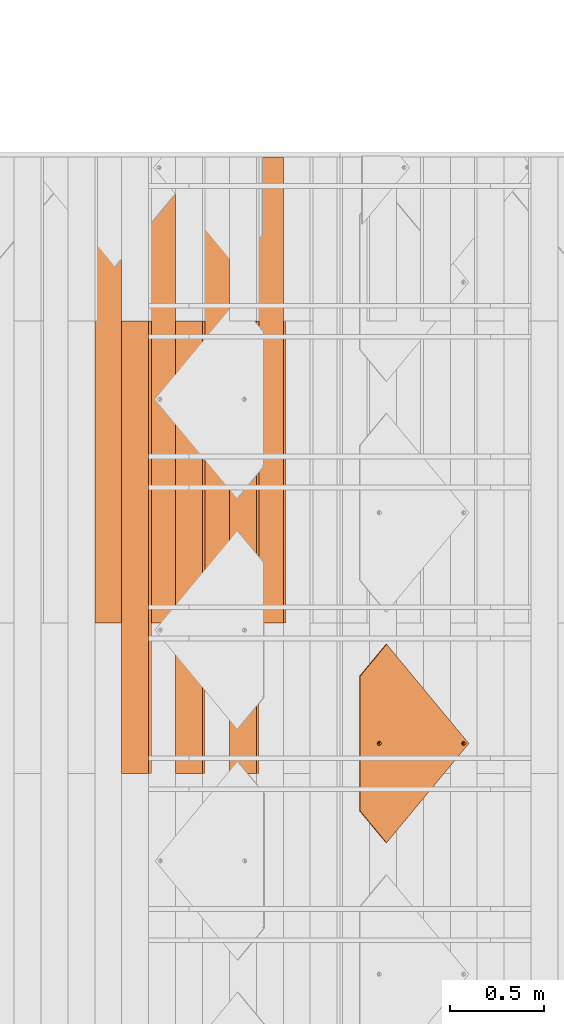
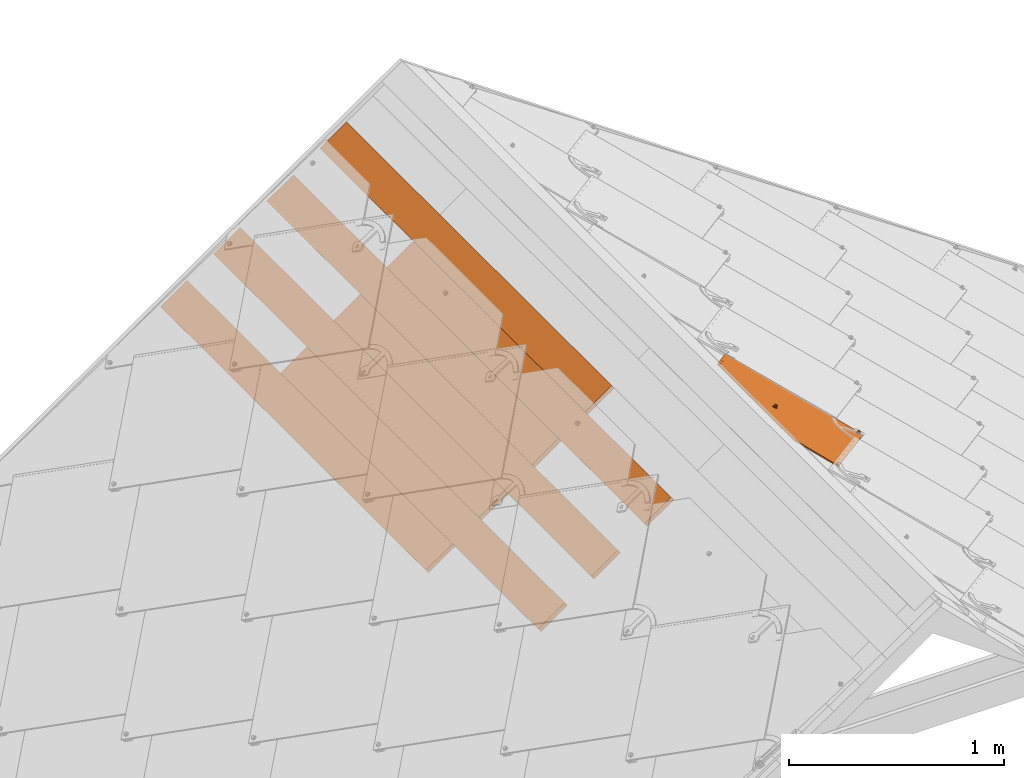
# One storey, part 69 of 151: 8 proxies, 1 element without a shape of its own.
"""IFC2X3 building model written with IfcOpenShell, lengths in millimetres."""

from ifc_helpers import new_model, entity, si_unit, converted_unit, derived_unit, direction, frame, frame_2d, origin, place, context, subcontext, project, spatial, rectangle, extrude, faceted_brep, source, transform, mapped, material, material_list, type_object, type_shapes, element, aggregate, save


model = new_model("IFC2X3")

# Units and contexts
model_context = context("Model", 3, precision=0.01, world=origin(), true_north=direction((6.12303176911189e-17, 1.0)))
body_context = subcontext(model_context, "Body", "Model", "MODEL_VIEW")
ifc_project = project(units=[si_unit("LENGTHUNIT", "METRE", prefix="MILLI"), si_unit("AREAUNIT", "SQUARE_METRE"), si_unit("VOLUMEUNIT", "CUBIC_METRE"), converted_unit("PLANEANGLEUNIT", "DEGREE", entity("IfcRatioMeasure", 0.0174532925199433), si_unit("PLANEANGLEUNIT", "RADIAN"), dimensions=[0, 0, 0, 0, 0, 0, 0]), si_unit("MASSUNIT", "GRAM", prefix="KILO"), derived_unit("MASSDENSITYUNIT", [(si_unit("MASSUNIT", "GRAM", prefix="KILO"), 1), (si_unit("LENGTHUNIT", "METRE"), -3)]), si_unit("TIMEUNIT", "SECOND"), si_unit("FREQUENCYUNIT", "HERTZ"), si_unit("THERMODYNAMICTEMPERATUREUNIT", "DEGREE_CELSIUS"), derived_unit("THERMALTRANSMITTANCEUNIT", [(si_unit("MASSUNIT", "GRAM", prefix="KILO"), 1), (si_unit("THERMODYNAMICTEMPERATUREUNIT", "KELVIN"), -1), (si_unit("TIMEUNIT", "SECOND"), -3)]), derived_unit("VOLUMETRICFLOWRATEUNIT", [(si_unit("LENGTHUNIT", "METRE"), 3), (si_unit("TIMEUNIT", "SECOND"), -1)]), si_unit("ELECTRICCURRENTUNIT", "AMPERE"), si_unit("ELECTRICVOLTAGEUNIT", "VOLT"), si_unit("POWERUNIT", "WATT"), si_unit("FORCEUNIT", "NEWTON", prefix="KILO"), si_unit("ILLUMINANCEUNIT", "LUX"), si_unit("LUMINOUSFLUXUNIT", "LUMEN"), si_unit("LUMINOUSINTENSITYUNIT", "CANDELA"), derived_unit("USERDEFINED", [(si_unit("MASSUNIT", "GRAM", prefix="KILO"), -1), (si_unit("LENGTHUNIT", "METRE"), -2), (si_unit("TIMEUNIT", "SECOND"), 3), (si_unit("LUMINOUSFLUXUNIT", "LUMEN"), 1)]), derived_unit("LINEARVELOCITYUNIT", [(si_unit("LENGTHUNIT", "METRE"), 1), (si_unit("TIMEUNIT", "SECOND"), -1)]), si_unit("PRESSUREUNIT", "PASCAL"), derived_unit("USERDEFINED", [(si_unit("LENGTHUNIT", "METRE"), -2), (si_unit("MASSUNIT", "GRAM", prefix="KILO"), 1), (si_unit("TIMEUNIT", "SECOND"), -2)])], contexts=[model_context])

# Site, building, storey
site_placement = place(None, origin())
site = spatial("IfcSite", under=ifc_project, at=site_placement, Name="Default", CompositionType="ELEMENT")
building_placement = place(site_placement, origin())
building = spatial("IfcBuilding", under=site, at=building_placement, CompositionType="ELEMENT")
storey_placement = place(building_placement, origin())
storey = spatial("IfcBuildingStorey", under=building, at=storey_placement, Name="Level 1", CompositionType="ELEMENT", Elevation=0.0)

# Assembly, proxies
assembly_placement = place(storey_placement, origin())
assembly = element("IfcElementAssembly", 1, at=assembly_placement, inside=storey, Name="Structural Framing Assembly:Roof Construction Assembly", ObjectType="Structural Framing Assembly:Roof Construction Assembly", AssemblyPlace="NOTDEFINED", PredefinedType="USERDEFINED")
ifc_material_1 = material(Name="Wood - Generic - Wood For Showcase")
building_element_proxy_type_1 = type_object("IfcBuildingElementProxyType", Name="Structural Framing 15", PredefinedType="NOTDEFINED", material=ifc_material_1)
shared_shape_1 = source(origin(), body_context, "Body", "SweptSolid", [
    extrude(rectangle(XDim=24.9999999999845, YDim=174.344679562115, at=frame_2d((-1.77635683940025e-13, -4.54747350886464e-13), x_axis=(0.0, 1.0))), frame((1128.20180147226, 1455.55080214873, 2760.23940055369), z_axis=(0.0, 1.0, 0.0), x_axis=(-0.819152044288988, 0.0, -0.573576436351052)), (0.0, 0.0, 1.0), 2469.99999999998),
])
type_shapes(building_element_proxy_type_1, [shared_shape_1])
proxy_1_placement = place(assembly_placement, frame((-228.141730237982, 0.0, -200.0)))
proxy_1 = element("IfcBuildingElementProxy", 2, at=proxy_1_placement, type_object=building_element_proxy_type_1, material=ifc_material_1, Name="Structural Framing 25:Structural Framing 15", ObjectType="Structural Framing 25:Structural Framing 15", context=body_context, shape_type="MappedRepresentation", body=[
    mapped(shared_shape_1, transform((0.0, 0.0, 0.0), scale=1.0)),
])
building_element_proxy_type_2 = type_object("IfcBuildingElementProxyType", Name="Structural Framing 15", PredefinedType="NOTDEFINED", material=ifc_material_1)
shared_shape_2 = source(origin(), body_context, "Body", "SweptSolid", [
    extrude(rectangle(XDim=24.9999999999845, YDim=174.344679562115, at=frame_2d((-1.77635683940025e-13, -4.54747350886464e-13), x_axis=(0.0, 1.0))), frame((1128.20180147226, 1525.55080214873, 2760.23940055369), z_axis=(0.0, 1.0, 0.0), x_axis=(-0.819152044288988, 0.0, -0.573576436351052)), (0.0, 0.0, 1.0), 2399.99999999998),
])
type_shapes(building_element_proxy_type_2, [shared_shape_2])
proxy_2_placement = place(assembly_placement, frame((-370.956530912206, -870.0, -300.0)))
proxy_2 = element("IfcBuildingElementProxy", 3, at=proxy_2_placement, type_object=building_element_proxy_type_2, material=ifc_material_1, Name="Structural Framing 30:Structural Framing 15", ObjectType="Structural Framing 30:Structural Framing 15", context=body_context, shape_type="MappedRepresentation", body=[
    mapped(shared_shape_2, transform((0.0, 0.0, 0.0), scale=1.0)),
])
building_element_proxy_type_3 = type_object("IfcBuildingElementProxyType", Name="Structural Framing 15", PredefinedType="NOTDEFINED", material=ifc_material_1)
shared_shape_3 = source(origin(), body_context, "Body", "SweptSolid", [
    extrude(rectangle(XDim=24.9999999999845, YDim=174.344679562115, at=frame_2d((-1.77635683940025e-13, -4.54747350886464e-13), x_axis=(0.0, 1.0))), frame((1128.20180147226, 1455.55080214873, 2760.23940055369), z_axis=(0.0, 1.0, 0.0), x_axis=(-0.819152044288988, 0.0, -0.573576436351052)), (0.0, 0.0, 1.0), 2469.99999999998),
])
type_shapes(building_element_proxy_type_3, [shared_shape_3])
proxy_3_placement = place(assembly_placement, frame((-513.771331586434, 0.0, -400.0)))
proxy_3 = element("IfcBuildingElementProxy", 4, at=proxy_3_placement, type_object=building_element_proxy_type_3, material=ifc_material_1, Name="Structural Framing 35:Structural Framing 15", ObjectType="Structural Framing 35:Structural Framing 15", context=body_context, shape_type="MappedRepresentation", body=[
    mapped(shared_shape_3, transform((0.0, 0.0, 0.0), scale=1.0)),
])
building_element_proxy_type_4 = type_object("IfcBuildingElementProxyType", Name="Structural Framing 15", PredefinedType="NOTDEFINED", material=ifc_material_1)
shared_shape_4 = source(origin(), body_context, "Body", "SweptSolid", [
    extrude(rectangle(XDim=24.9999999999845, YDim=174.344679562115, at=frame_2d((-1.77635683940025e-13, -4.54747350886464e-13), x_axis=(0.0, 1.0))), frame((1128.20180147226, 1525.55080214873, 2760.23940055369), z_axis=(0.0, 1.0, 0.0), x_axis=(-0.819152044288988, 0.0, -0.573576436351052)), (0.0, 0.0, 1.0), 2399.99999999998),
])
type_shapes(building_element_proxy_type_4, [shared_shape_4])
proxy_4_placement = place(assembly_placement, frame((-656.586132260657, -870.0, -500.0)))
proxy_4 = element("IfcBuildingElementProxy", 5, at=proxy_4_placement, type_object=building_element_proxy_type_4, material=ifc_material_1, Name="Structural Framing 40:Structural Framing 15", ObjectType="Structural Framing 40:Structural Framing 15", context=body_context, shape_type="MappedRepresentation", body=[
    mapped(shared_shape_4, transform((0.0, 0.0, 0.0), scale=1.0)),
])
building_element_proxy_type_5 = type_object("IfcBuildingElementProxyType", Name="Structural Framing 15", PredefinedType="NOTDEFINED", material=ifc_material_1)
shared_shape_5 = source(origin(), body_context, "Body", "SweptSolid", [
    extrude(rectangle(XDim=24.9999999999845, YDim=174.344679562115, at=frame_2d((-1.77635683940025e-13, -4.54747350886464e-13), x_axis=(0.0, 1.0))), frame((1128.20180147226, 1455.55080214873, 2760.23940055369), z_axis=(0.0, 1.0, 0.0), x_axis=(-0.819152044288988, 0.0, -0.573576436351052)), (0.0, 0.0, 1.0), 2469.99999999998),
])
type_shapes(building_element_proxy_type_5, [shared_shape_5])
proxy_5_placement = place(assembly_placement, frame((-799.400932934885, 0.0, -600.0)))
proxy_5 = element("IfcBuildingElementProxy", 6, at=proxy_5_placement, type_object=building_element_proxy_type_5, material=ifc_material_1, Name="Structural Framing 45:Structural Framing 15", ObjectType="Structural Framing 45:Structural Framing 15", context=body_context, shape_type="MappedRepresentation", body=[
    mapped(shared_shape_5, transform((0.0, 0.0, 0.0), scale=1.0)),
])
building_element_proxy_type_6 = type_object("IfcBuildingElementProxyType", Name="Structural Framing 15", PredefinedType="NOTDEFINED", material=ifc_material_1)
shared_shape_6 = source(origin(), body_context, "Body", "SweptSolid", [
    extrude(rectangle(XDim=24.9999999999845, YDim=174.344679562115, at=frame_2d((-1.77635683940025e-13, -4.54747350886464e-13), x_axis=(0.0, 1.0))), frame((1128.20180147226, 1525.55080214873, 2760.23940055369), z_axis=(0.0, 1.0, 0.0), x_axis=(-0.819152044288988, 0.0, -0.573576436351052)), (0.0, 0.0, 1.0), 2399.99999999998),
])
type_shapes(building_element_proxy_type_6, [shared_shape_6])
proxy_6_placement = place(assembly_placement, frame((-942.215733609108, -870.0, -700.0)))
proxy_6 = element("IfcBuildingElementProxy", 7, at=proxy_6_placement, type_object=building_element_proxy_type_6, material=ifc_material_1, Name="Structural Framing 50:Structural Framing 15", ObjectType="Structural Framing 50:Structural Framing 15", context=body_context, shape_type="MappedRepresentation", body=[
    mapped(shared_shape_6, transform((0.0, 0.0, 0.0), scale=1.0)),
])
building_element_proxy_type_7 = type_object("IfcBuildingElementProxyType", Name="Structural Framing 15", PredefinedType="NOTDEFINED", material=ifc_material_1)
shared_shape_7 = source(origin(), body_context, "Body", "SweptSolid", [
    extrude(rectangle(XDim=24.9999999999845, YDim=174.344679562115, at=frame_2d((-1.77635683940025e-13, -4.54747350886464e-13), x_axis=(0.0, 1.0))), frame((1128.20180147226, 1455.55080214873, 2760.23940055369), z_axis=(0.0, 1.0, 0.0), x_axis=(-0.819152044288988, 0.0, -0.573576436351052)), (0.0, 0.0, 1.0), 2469.99999999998),
])
type_shapes(building_element_proxy_type_7, [shared_shape_7])
proxy_7_placement = place(assembly_placement, frame((-1085.03053428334, 0.0, -800.0)))
proxy_7 = element("IfcBuildingElementProxy", 8, at=proxy_7_placement, type_object=building_element_proxy_type_7, material=ifc_material_1, Name="Structural Framing 55:Structural Framing 15", ObjectType="Structural Framing 55:Structural Framing 15", context=body_context, shape_type="MappedRepresentation", body=[
    mapped(shared_shape_7, transform((0.0, 0.0, 0.0), scale=1.0)),
])
aggregate(assembly, [proxy_1, proxy_2, proxy_3, proxy_4, proxy_5, proxy_6, proxy_7])

# Proxy
ifc_material_2 = material(Name="Rubber - Sunstyle - Black")
ifc_material_3 = material(Name="Glass - Sunstyle - Tainted Black")
ifc_material_list_1 = material_list([ifc_material_2, ifc_material_3])
ifc_material_list_2 = material_list([ifc_material_2, ifc_material_3])
building_element_proxy_type_8 = type_object("IfcBuildingElementProxyType", Name="Shingle Top - Black", PredefinedType="NOTDEFINED", material=ifc_material_list_2)
shared_shape_8 = source(origin(), body_context, "Body", "Brep", [
    faceted_brep([(-518.396436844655, -96.9865733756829, 16.4476231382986), (-518.396436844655, -96.9614556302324, 17.9474128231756), (-526.881123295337, -88.4767691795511, 17.8053154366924), (-526.881123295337, -88.5018869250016, 16.3055257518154), (-376.996804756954, 61.3404039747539, 13.7960402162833), (-368.512118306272, 52.8557175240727, 13.9381376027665), (-376.996804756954, 61.3655217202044, 15.2958299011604), (-368.512118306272, 52.8808352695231, 15.4379272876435)], [[[0, 1, 2, 3]], [[0, 3, 4, 5]], [[3, 2, 6, 4]], [[2, 1, 7, 6]], [[1, 0, 5, 7]], [[5, 4, 6, 7]]]),
    faceted_brep([(0.166366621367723, -33.6374645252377, -4.47296585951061), (-5.6078362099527, -36.9707346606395, -4.4171418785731), (-5.60783620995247, -36.6024255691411, 17.5747274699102), (0.166366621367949, -33.2691554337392, 17.5189034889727), (-5.60783620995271, -43.6372749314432, -4.30549391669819), (-5.60783620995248, -43.2689658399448, 17.6863754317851), (0.166366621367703, -46.9705450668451, -4.24966993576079), (0.166366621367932, -46.6022359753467, 17.7421994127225), (5.94056945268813, -43.6372749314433, -4.30549391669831), (5.94056945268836, -43.2689658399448, 17.686375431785), (5.94056945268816, -36.9707346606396, -4.41714187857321), (5.94056945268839, -36.6024255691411, 17.5747274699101), (-8.43733754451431, -48.5381935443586, 17.774621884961), (0.16636662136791, -52.1014648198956, 17.8342978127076), (-12.0011084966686, -39.9356957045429, 17.6305514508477), (-8.43733754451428, -31.3331978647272, 17.4864810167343), (0.166366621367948, -27.7699265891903, 17.4268050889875), (8.77007078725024, -31.3331978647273, 17.4864810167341), (12.3338417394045, -39.935695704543, 17.6305514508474), (8.77007078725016, -48.5381935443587, 17.7746218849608), (-11.1578780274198, -37.6406185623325, 19.9433933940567), (-9.59010793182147, -39.8646808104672, 21.8708760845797), (0.166366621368, -32.5516055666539, 22.5035764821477), (0.166366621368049, -31.3111079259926, 21.9232298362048), (0.166366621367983, -29.1535570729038, 20.9138547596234), (0.166366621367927, -51.5454208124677, 19.1093557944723), (0.166366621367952, -50.6018442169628, 21.273060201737), (0.166366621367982, -47.1524685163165, 22.7481046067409), (0.166366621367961, -28.2829626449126, 18.7197675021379), (-6.15687907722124, -43.5022527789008, 22.6869725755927), (-6.15687907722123, -36.2018213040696, 22.5647085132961), (11.4906112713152, -42.1520387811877, 20.0189484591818), (10.0152467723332, -40.9390872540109, 21.7920079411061), (6.48961231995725, -36.2018213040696, 22.564708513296), (6.48961231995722, -43.5022527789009, 22.6869725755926), (-6.15687907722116, -43.3682243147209, 30.68986075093), (0.166366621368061, -47.0184400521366, 30.7509927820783), (0.166366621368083, -39.7180085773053, 30.6287287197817), (-6.15687907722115, -36.0677928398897, 30.5675966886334), (6.48961231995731, -43.368224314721, 30.6898607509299), (6.48961231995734, -36.0677928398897, 30.5675966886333), (0.166366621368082, -32.417577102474, 30.5064646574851), (0.166366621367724, -40.3040047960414, -4.36131789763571)], [[[0, 1, 2, 3]], [[1, 4, 5, 2]], [[4, 6, 7, 5]], [[6, 8, 9, 7]], [[8, 10, 11, 9]], [[10, 0, 3, 11]], [[12, 7, 13]], [[7, 12, 5]], [[14, 5, 12]], [[5, 14, 2]], [[15, 2, 14]], [[3, 2, 15]], [[15, 16, 3]], [[16, 17, 3]], [[11, 3, 17]], [[11, 17, 18]], [[9, 11, 18]], [[18, 19, 9]], [[7, 9, 19]], [[19, 13, 7]], [[20, 14, 12]], [[21, 22, 23, 24]], [[24, 20, 21]], [[25, 20, 12]], [[26, 27, 21]], [[15, 14, 20]], [[12, 13, 25]], [[20, 28, 15]], [[28, 20, 24]], [[21, 27, 29]], [[21, 29, 30]], [[26, 21, 20]], [[20, 25, 26]], [[15, 28, 16]], [[21, 30, 22]], [[31, 18, 17]], [[28, 31, 17]], [[32, 27, 26]], [[26, 31, 32]], [[26, 25, 31]], [[25, 19, 31]], [[17, 16, 28]], [[31, 19, 18]], [[24, 31, 28]], [[33, 34, 32]], [[23, 22, 33]], [[24, 32, 31]], [[27, 32, 34]], [[32, 23, 33]], [[19, 25, 13]], [[32, 24, 23]], [[35, 36, 37]], [[37, 38, 35]], [[36, 39, 37]], [[40, 37, 39]], [[37, 40, 41]], [[37, 41, 38]], [[42, 6, 4]], [[4, 1, 42]], [[1, 0, 42]], [[42, 8, 6]], [[0, 10, 42]], [[8, 42, 10]], [[22, 30, 38, 41]], [[30, 29, 35, 38]], [[29, 27, 36, 35]], [[27, 34, 39, 36]], [[34, 33, 40, 39]], [[33, 22, 41, 40]]]),
    faceted_brep([(0.0, -573.927138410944, 4.00636906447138), (-5.77420283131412, -577.260408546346, 4.0621930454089), (-5.77420283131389, -576.892099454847, 26.0540623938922), (0.0, -573.558829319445, 25.9982384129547), (-5.77420283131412, -583.926948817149, 4.1738410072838), (-5.7742028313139, -583.558639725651, 26.1657103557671), (0.0, -587.260218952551, 4.2296649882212), (0.0, -586.891909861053, 26.2215343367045), (5.77420283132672, -583.926948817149, 4.17384100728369), (5.77420283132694, -583.558639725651, 26.165710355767), (5.77420283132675, -577.260408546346, 4.06219304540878), (5.77420283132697, -576.892099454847, 26.0540623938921), (-8.60370416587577, -588.827867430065, 26.253956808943), (0.0, -592.391138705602, 26.3136327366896), (-12.1674751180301, -580.225369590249, 26.1098863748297), (-8.60370416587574, -571.622871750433, 25.9658159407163), (0.0, -568.059600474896, 25.9061400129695), (8.60370416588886, -571.622871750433, 25.9658159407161), (12.1674751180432, -580.225369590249, 26.1098863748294), (8.60370416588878, -588.827867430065, 26.2539568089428), (-11.3242446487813, -577.930292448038, 28.4227283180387), (-9.75647455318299, -580.154354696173, 30.3502110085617), (0.0, -572.84127945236, 30.9829114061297), (0.0, -571.600781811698, 30.4025647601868), (0.0, -569.44323095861, 29.3931896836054), (0.0, -591.835094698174, 27.5886907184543), (0.0, -590.891518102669, 29.752395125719), (0.0, -587.442142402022, 31.227439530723), (0.0, -568.572636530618, 27.1991024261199), (-6.32324569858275, -583.791926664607, 31.1663074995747), (-6.32324569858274, -576.491495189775, 31.0440434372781), (11.3242446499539, -582.441712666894, 28.4982833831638), (9.84888015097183, -581.228761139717, 30.2713428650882), (6.32324569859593, -576.491495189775, 31.044043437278), (6.32324569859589, -583.791926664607, 31.1663074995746), (-6.32324569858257, -583.657898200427, 39.169195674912), (0.0, -587.308113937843, 39.2303277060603), (0.0, -580.007682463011, 39.1080636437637), (-6.32324569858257, -576.357466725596, 39.0469316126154), (6.32324569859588, -583.657898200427, 39.1691956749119), (6.32324569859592, -576.357466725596, 39.0469316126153), (0.0, -572.70725098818, 38.9857995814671), (0.0, -580.593678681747, 4.11801702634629)], [[[0, 1, 2, 3]], [[1, 4, 5, 2]], [[4, 6, 7, 5]], [[6, 8, 9, 7]], [[8, 10, 11, 9]], [[10, 0, 3, 11]], [[12, 7, 13]], [[7, 12, 5]], [[14, 5, 12]], [[5, 14, 2]], [[15, 2, 14]], [[3, 2, 15]], [[15, 16, 3]], [[16, 17, 3]], [[11, 3, 17]], [[11, 17, 18]], [[9, 11, 18]], [[18, 19, 9]], [[7, 9, 19]], [[19, 13, 7]], [[20, 14, 12]], [[21, 22, 23, 24]], [[24, 20, 21]], [[25, 20, 12]], [[26, 27, 21]], [[15, 14, 20]], [[12, 13, 25]], [[20, 28, 15]], [[28, 20, 24]], [[21, 27, 29]], [[21, 29, 30]], [[26, 21, 20]], [[20, 25, 26]], [[15, 28, 16]], [[21, 30, 22]], [[31, 18, 17]], [[28, 31, 17]], [[32, 27, 26]], [[26, 31, 32]], [[26, 25, 31]], [[25, 19, 31]], [[17, 16, 28]], [[31, 19, 18]], [[24, 31, 28]], [[33, 34, 32]], [[23, 22, 33]], [[24, 32, 31]], [[27, 32, 34]], [[32, 23, 33]], [[19, 25, 13]], [[32, 24, 23]], [[35, 36, 37]], [[37, 38, 35]], [[36, 39, 37]], [[40, 37, 39]], [[37, 40, 41]], [[37, 41, 38]], [[42, 6, 4]], [[4, 1, 42]], [[1, 0, 42]], [[42, 8, 6]], [[0, 10, 42]], [[8, 42, 10]], [[22, 30, 38, 41]], [[30, 29, 35, 38]], [[29, 27, 36, 35]], [[27, 34, 39, 36]], [[34, 33, 40, 39]], [[33, 22, 41, 40]]]),
    faceted_brep([(518.482751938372, -96.8754983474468, 17.9260478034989), (526.967438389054, -88.3908118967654, 17.7839504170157), (526.967438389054, -88.3656941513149, 19.2837401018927), (518.482751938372, -96.8503806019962, 19.4258374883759), (349.749400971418, 71.8105397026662, 15.1009763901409), (358.234087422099, 80.2952261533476, 14.9588790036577), (358.234087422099, 80.3203438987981, 16.4586686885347), (349.749400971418, 71.8356574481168, 16.6007660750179)], [[[0, 1, 2, 3]], [[1, 0, 4, 5]], [[2, 1, 5, 6]], [[3, 2, 6, 7]], [[0, 3, 7, 4]], [[4, 7, 6, 5]]]),
    faceted_brep([(358.234087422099, 80.2952261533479, 14.9588790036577), (6.94661128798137, -35.8890860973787, 16.9046771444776), (7.74581466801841, -37.8182632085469, 16.9369860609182), (5.67526230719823, -34.2324641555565, 16.8769328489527), (8.01840805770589, -39.8885252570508, 16.9716577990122), (7.74581466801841, -41.9587873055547, 17.0063295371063), (6.94661128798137, -43.8879644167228, 17.0386384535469), (526.967438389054, -88.3908118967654, 17.7839504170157), (4.01840805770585, -32.9612934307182, 16.855643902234), (2.08896041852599, -32.1622021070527, 16.8422611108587), (0.0184080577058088, -31.8896469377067, 16.8376964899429), (-358.233442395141, 80.2952261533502, 14.9588790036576), (-2.05214430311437, -32.1622021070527, 16.8422611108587), (-3.98159194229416, -32.9612934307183, 16.855643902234), (-5.63844619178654, -34.2324641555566, 16.8769328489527), (-6.90979517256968, -35.8890860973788, 16.9046771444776), (-7.70899855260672, -37.8182632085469, 16.9369860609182), (-7.98159194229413, -39.8885252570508, 16.9716577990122), (-7.70899855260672, -41.9587873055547, 17.0063295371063), (-6.90979517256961, -43.8879644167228, 17.0386384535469), (-526.966793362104, -88.390811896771, 17.7839504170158), (-5.63844619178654, -45.544586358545, 17.0663827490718), (-5.6568542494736, -574.226981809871, 25.9204974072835), (-6.92820323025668, -575.883603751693, 25.9482417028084), (-7.72740661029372, -577.812780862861, 25.980550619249), (-8.0, -579.883042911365, 26.015222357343), (-7.72740661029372, -581.953304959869, 26.049894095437), (0.000322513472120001, -615.210165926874, 26.6068637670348), (7.72740661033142, -581.953304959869, 26.049894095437), (6.92820323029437, -583.882482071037, 26.0822030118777), (5.65685424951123, -585.53910401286, 26.1099473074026), (4.0, -586.810274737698, 26.1312362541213), (2.070552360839, -587.609366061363, 26.1446190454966), (0.0, -587.881921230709, 26.1491836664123), (-2.0705523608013, -587.609366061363, 26.1446190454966), (-4.0, -586.810274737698, 26.1312362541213), (-5.65685424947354, -585.53910401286, 26.1099473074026), (-6.92820323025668, -583.882482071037, 26.0822030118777), (-4.0, -572.955811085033, 25.8992084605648), (-3.98159194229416, -46.8157570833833, 17.0876716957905), (-2.07055236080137, -572.156719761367, 25.8858256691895), (-2.05214430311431, -47.614848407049, 17.1010544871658), (0.0, -571.884164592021, 25.8812610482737), (0.0184080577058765, -47.8874035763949, 17.1056191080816), (2.07055236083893, -572.156719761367, 25.8858256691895), (2.08896041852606, -47.6148484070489, 17.1010544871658), (4.0, -572.955811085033, 25.8992084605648), (4.01840805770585, -46.8157570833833, 17.0876716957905), (5.65685424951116, -574.226981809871, 25.9204974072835), (5.67526230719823, -45.544586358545, 17.0663827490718), (6.92820323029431, -575.883603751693, 25.9482417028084), (7.72740661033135, -577.812780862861, 25.980550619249), (8.0, -579.883042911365, 26.015222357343), (-358.233442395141, 80.1947551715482, 8.9597202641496), (-6.90979517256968, -35.9895570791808, 10.9055184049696), (-7.70899855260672, -37.9187341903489, 10.9378273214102), (-5.63844619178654, -34.3329351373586, 10.8777741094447), (-7.98159194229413, -39.9889962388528, 10.9724990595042), (-7.70899855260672, -42.0592582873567, 11.0071707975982), (-6.90979517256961, -43.9884353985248, 11.0394797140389), (-526.966793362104, -88.4912828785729, 11.7847916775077), (-3.98159194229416, -33.0617644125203, 10.856485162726), (-2.05214430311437, -32.2626730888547, 10.8431023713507), (0.0184080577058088, -31.9901179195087, 10.8385377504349), (358.234087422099, 80.1947551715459, 8.95972026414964), (2.08896041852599, -32.2626730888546, 10.8431023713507), (4.01840805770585, -33.0617644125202, 10.856485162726), (5.67526230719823, -34.3329351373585, 10.8777741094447), (6.94661128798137, -35.9895570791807, 10.9055184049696), (7.74581466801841, -37.9187341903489, 10.9378273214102), (8.01840805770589, -39.9889962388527, 10.9724990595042), (7.74581466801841, -42.0592582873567, 11.0071707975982), (6.94661128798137, -43.9884353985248, 11.0394797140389), (526.967438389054, -88.4912828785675, 11.7847916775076), (5.67526230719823, -45.645057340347, 11.0672240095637), (5.65685424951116, -574.327452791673, 19.9213386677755), (6.92820323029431, -575.984074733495, 19.9490829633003), (7.72740661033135, -577.913251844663, 19.981391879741), (8.0, -579.983513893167, 20.016063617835), (7.72740661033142, -582.053775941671, 20.050735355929), (0.000322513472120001, -615.310636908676, 20.6077050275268), (-7.72740661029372, -582.053775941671, 20.050735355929), (-6.92820323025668, -583.982953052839, 20.0830442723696), (-5.65685424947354, -585.639574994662, 20.1107885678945), (-4.0, -586.9107457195, 20.1320775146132), (-2.0705523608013, -587.709837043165, 20.1454603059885), (0.0, -587.982392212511, 20.1500249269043), (2.070552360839, -587.709837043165, 20.1454603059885), (4.0, -586.9107457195, 20.1320775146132), (5.65685424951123, -585.639574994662, 20.1107885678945), (6.92820323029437, -583.982953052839, 20.0830442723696), (4.01840805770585, -46.9162280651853, 11.0885129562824), (4.0, -573.056282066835, 19.9000497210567), (2.08896041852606, -47.7153193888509, 11.1018957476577), (2.07055236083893, -572.257190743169, 19.8866669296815), (0.0184080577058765, -47.9878745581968, 11.1064603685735), (0.0, -571.984635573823, 19.8821023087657), (-2.05214430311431, -47.7153193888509, 11.1018957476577), (-2.07055236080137, -572.257190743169, 19.8866669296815), (-3.98159194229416, -46.9162280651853, 11.0885129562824), (-4.0, -573.056282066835, 19.9000497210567), (-5.63844619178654, -45.645057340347, 11.0672240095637), (-5.6568542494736, -574.327452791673, 19.9213386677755), (-6.92820323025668, -575.984074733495, 19.9490829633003), (-7.72740661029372, -577.913251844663, 19.981391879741), (-8.0, -579.983513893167, 20.016063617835)], [[[0, 1, 2]], [[1, 0, 3]], [[0, 2, 4]], [[4, 5, 0]], [[5, 6, 0]], [[7, 0, 6]], [[8, 3, 0]], [[9, 8, 0]], [[10, 9, 0]], [[0, 11, 10]], [[12, 10, 11]], [[13, 12, 11]], [[14, 13, 11]], [[11, 15, 14]], [[15, 11, 16]], [[16, 11, 17]], [[11, 18, 17]], [[18, 11, 19]], [[11, 20, 19]], [[19, 20, 21]], [[20, 22, 21]], [[23, 22, 20]], [[24, 23, 20]], [[24, 20, 25]], [[26, 25, 20]], [[27, 26, 20]], [[7, 28, 27]], [[29, 27, 28]], [[27, 29, 30]], [[30, 31, 27]], [[31, 32, 27]], [[27, 32, 33]], [[27, 33, 34]], [[34, 35, 27]], [[27, 35, 36]], [[36, 37, 27]], [[37, 26, 27]], [[38, 21, 22]], [[38, 39, 21]], [[38, 40, 39]], [[40, 41, 39]], [[40, 42, 41]], [[41, 42, 43]], [[44, 43, 42]], [[44, 45, 43]], [[45, 44, 46]], [[46, 47, 45]], [[46, 48, 47]], [[48, 49, 47]], [[50, 7, 48]], [[48, 7, 49]], [[7, 50, 51]], [[7, 51, 52]], [[52, 28, 7]], [[7, 6, 49]], [[53, 54, 55]], [[54, 53, 56]], [[53, 55, 57]], [[58, 53, 57]], [[59, 53, 58]], [[60, 53, 59]], [[61, 56, 53]], [[62, 61, 53]], [[53, 63, 62]], [[63, 53, 64]], [[65, 63, 64]], [[66, 65, 64]], [[64, 67, 66]], [[67, 64, 68]], [[68, 64, 69]], [[70, 69, 64]], [[71, 70, 64]], [[72, 71, 64]], [[72, 64, 73]], [[72, 73, 74]], [[74, 73, 75]], [[73, 76, 75]], [[76, 73, 77]], [[77, 73, 78]], [[79, 78, 73]], [[79, 73, 80]], [[60, 81, 80]], [[80, 81, 82]], [[80, 82, 83]], [[83, 84, 80]], [[84, 85, 80]], [[85, 86, 80]], [[80, 86, 87]], [[80, 87, 88]], [[80, 88, 89]], [[79, 80, 90]], [[80, 89, 90]], [[75, 91, 74]], [[75, 92, 91]], [[92, 93, 91]], [[93, 92, 94]], [[93, 94, 95]], [[96, 95, 94]], [[97, 95, 96]], [[96, 98, 97]], [[98, 99, 97]], [[98, 100, 99]], [[100, 101, 99]], [[100, 102, 101]], [[60, 101, 102]], [[103, 60, 102]], [[103, 104, 60]], [[104, 105, 60]], [[105, 81, 60]], [[59, 101, 60]], [[27, 20, 60, 80]], [[7, 27, 80, 73]], [[0, 7, 73, 64]], [[25, 105, 104, 24]], [[24, 104, 103, 23]], [[38, 22, 102, 100]], [[102, 22, 23, 103]], [[40, 38, 100, 98]], [[40, 98, 96, 42]], [[42, 96, 94, 44]], [[44, 94, 92, 46]], [[50, 48, 75, 76]], [[75, 48, 46, 92]], [[51, 50, 76, 77]], [[51, 77, 78, 52]], [[52, 78, 79, 28]], [[28, 79, 90, 29]], [[31, 30, 89, 88]], [[29, 90, 89, 30]], [[87, 32, 31, 88]], [[32, 87, 86, 33]], [[34, 33, 86, 85]], [[34, 85, 84, 35]], [[37, 36, 83, 82]], [[35, 84, 83, 36]], [[37, 82, 81, 26]], [[26, 81, 105, 25]], [[17, 57, 55, 16]], [[16, 55, 54, 15]], [[13, 14, 56, 61]], [[56, 14, 15, 54]], [[12, 13, 61, 62]], [[12, 62, 63, 10]], [[10, 63, 65, 9]], [[9, 65, 66, 8]], [[1, 3, 67, 68]], [[67, 3, 8, 66]], [[2, 1, 68, 69]], [[2, 69, 70, 4]], [[4, 70, 71, 5]], [[5, 71, 72, 6]], [[47, 49, 74, 91]], [[74, 49, 6, 72]], [[45, 47, 91, 93]], [[45, 93, 95, 43]], [[43, 95, 97, 41]], [[41, 97, 99, 39]], [[19, 21, 101, 59]], [[101, 21, 39, 99]], [[18, 19, 59, 58]], [[18, 58, 57, 17]], [[11, 0, 64, 53]], [[20, 11, 53, 60]]]),
])
type_shapes(building_element_proxy_type_8, [shared_shape_8])
proxy_8_placement = place(storey_placement, frame((1429.25691597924, 815.795899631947, 2714.99202663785), z_axis=(0.573576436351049, 0.0, 0.81915204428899), x_axis=(0.0, 1.0, 0.0)))
element("IfcBuildingElementProxy", 9, at=proxy_8_placement, inside=storey, type_object=building_element_proxy_type_8, material=ifc_material_list_1, Name="Roofing_Panels_SunStyle_Tile_Shingle-Top:Shingle Top - Black", ObjectType="Roofing_Panels_SunStyle_Tile_Shingle-Top:Shingle Top - Black", context=body_context, shape_type="MappedRepresentation", body=[
    mapped(shared_shape_8, transform((0.0, 0.0, 0.0), scale=1.0)),
])

save(model, "model.ifc")
